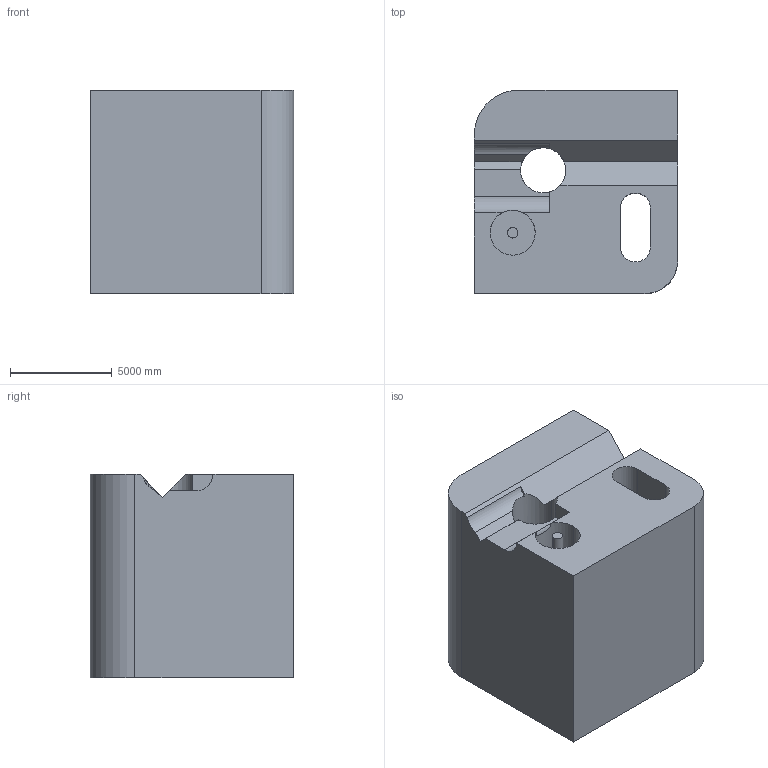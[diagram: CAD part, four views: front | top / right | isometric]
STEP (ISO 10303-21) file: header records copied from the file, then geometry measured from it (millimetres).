
FILE_DESCRIPTION (( 'STEP AP203' ), '1' );
FILE_NAME ('817.STEP', '2022-07-29T13:26:01', ( 'user' ), ( '' ), 'SwSTEP 2.0', 'SolidWorks 2021', '' );
FILE_SCHEMA (( 'CONFIG_CONTROL_DESIGN' ));
Length unit declared in the file: centimetre
Products named in the file (1): 817
Bounding box: 10000 x 10000 x 10000 mm (x, y, z)
Volume: 847407656099.3 mm3; surface area: 779937894.8 mm2
Topology: 1 solids, 1 shells, 39 faces, 114 edges, 76 vertices
Faces by surface type: plane 24, cylinder 15
Entity records: 1563 total; most frequent: CARTESIAN_POINT 419, ORIENTED_EDGE 228, DIRECTION 223, EDGE_CURVE 114, VERTEX_POINT 76, AXIS2_PLACEMENT_3D 76, VECTOR 71, LINE 71
